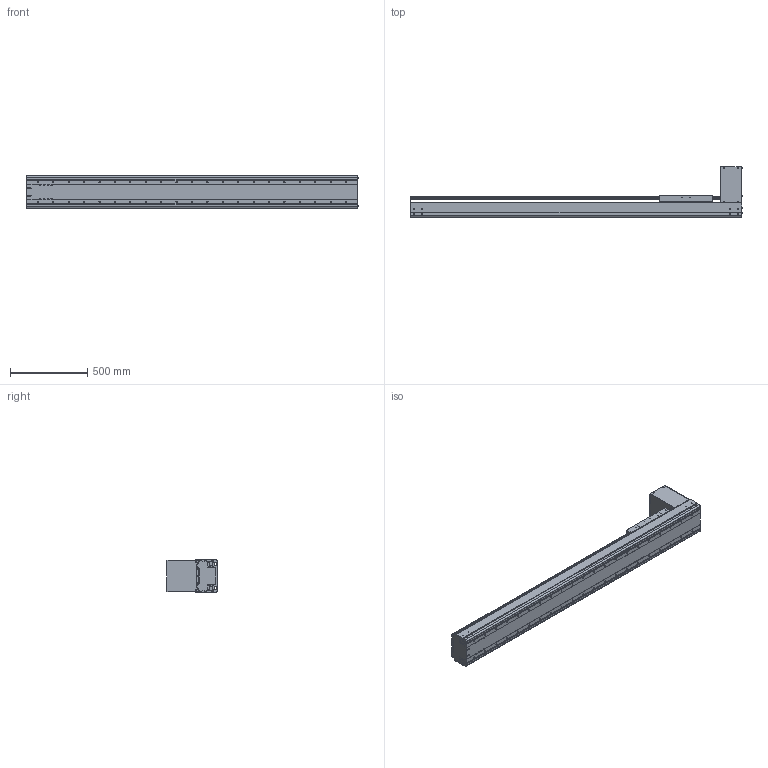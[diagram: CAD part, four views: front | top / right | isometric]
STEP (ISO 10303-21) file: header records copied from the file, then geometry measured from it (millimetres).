
FILE_DESCRIPTION((''),'2;1');
FILE_NAME('BE60J-BT-L19N-F5_IGS_PRT','2017-06-18T',(' '),(''),'PRO/ENGINEER BY PARAMETRIC TECHNOLOGY CORPORATION, 2015030','PRO/ENGINEER BY PARAMETRIC TECHNOLOGY CORPORATION, 2015030','');
FILE_SCHEMA(('CONFIG_CONTROL_DESIGN'));
Products named in the file (1): BE60J-BT-L19N-F5_IGS_PRT
Bounding box: 2154.4 x 327.5 x 214 mm (x, y, z)
Volume: 15730785 mm3; surface area: 4777054.9 mm2
Topology: 1 solids, 287 shells, 2264 faces, 6380 edges, 4269 vertices
Faces by surface type: cylinder 1100, plane 844, cone 224, torus 48, sphere 48
Entity records: 75474 total; most frequent: CARTESIAN_POINT 17264, DIRECTION 12181, ORIENTED_EDGE 11408, EDGE_CURVE 6198, AXIS2_PLACEMENT_3D 4609, VERTEX_POINT 4250, VECTOR 2963, LINE 2963
